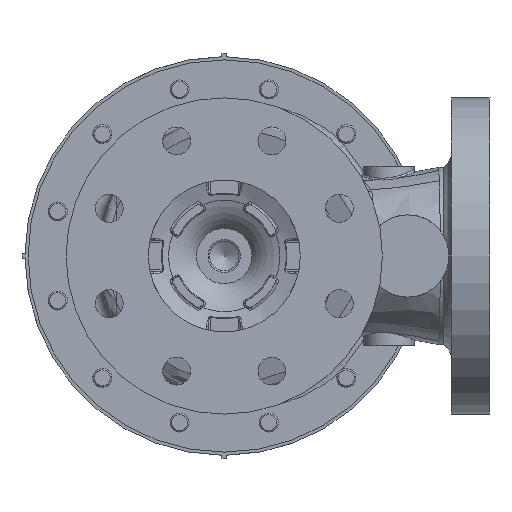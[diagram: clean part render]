
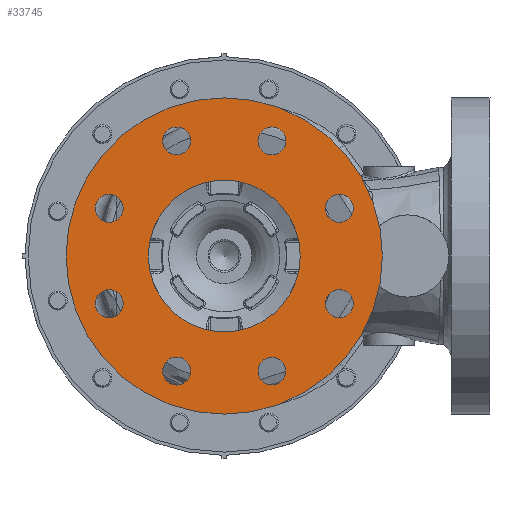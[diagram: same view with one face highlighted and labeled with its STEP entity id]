
A CAD part, front view. The second image highlights one B-rep face of the part: STEP entity #33745.
In plain terms, the highlighted planar face has unit normal (0, -1, 0).
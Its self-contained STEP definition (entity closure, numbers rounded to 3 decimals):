
#980=FACE_BOUND('',#8175,.T.);
#981=FACE_BOUND('',#8176,.T.);
#982=FACE_BOUND('',#8177,.T.);
#983=FACE_BOUND('',#8178,.T.);
#984=FACE_BOUND('',#8179,.T.);
#985=FACE_BOUND('',#8180,.T.);
#986=FACE_BOUND('',#8181,.T.);
#987=FACE_BOUND('',#8182,.T.);
#988=FACE_BOUND('',#8183,.T.);
#5221=PLANE('',#35772);
#6191=FACE_OUTER_BOUND('',#8174,.T.);
#8174=EDGE_LOOP('',(#21539));
#8175=EDGE_LOOP('',(#21540));
#8176=EDGE_LOOP('',(#21541));
#8177=EDGE_LOOP('',(#21542));
#8178=EDGE_LOOP('',(#21543));
#8179=EDGE_LOOP('',(#21544));
#8180=EDGE_LOOP('',(#21545));
#8181=EDGE_LOOP('',(#21546));
#8182=EDGE_LOOP('',(#21547));
#8183=EDGE_LOOP('',(#21548));
#10314=CIRCLE('',#35773,158.75);
#10315=CIRCLE('',#35774,76.2);
#10316=CIRCLE('',#35775,14.);
#10317=CIRCLE('',#35776,14.);
#10318=CIRCLE('',#35777,14.);
#10319=CIRCLE('',#35778,14.);
#10320=CIRCLE('',#35779,14.);
#10321=CIRCLE('',#35780,14.);
#10322=CIRCLE('',#35781,14.);
#10323=CIRCLE('',#35782,14.);
#13193=VERTEX_POINT('',#49818);
#13194=VERTEX_POINT('',#49820);
#13195=VERTEX_POINT('',#49822);
#13196=VERTEX_POINT('',#49824);
#13197=VERTEX_POINT('',#49826);
#13198=VERTEX_POINT('',#49828);
#13199=VERTEX_POINT('',#49830);
#13200=VERTEX_POINT('',#49832);
#13201=VERTEX_POINT('',#49834);
#13202=VERTEX_POINT('',#49836);
#16459=EDGE_CURVE('',#13193,#13193,#10314,.T.);
#16460=EDGE_CURVE('',#13194,#13194,#10315,.T.);
#16461=EDGE_CURVE('',#13195,#13195,#10316,.T.);
#16462=EDGE_CURVE('',#13196,#13196,#10317,.T.);
#16463=EDGE_CURVE('',#13197,#13197,#10318,.T.);
#16464=EDGE_CURVE('',#13198,#13198,#10319,.T.);
#16465=EDGE_CURVE('',#13199,#13199,#10320,.T.);
#16466=EDGE_CURVE('',#13200,#13200,#10321,.T.);
#16467=EDGE_CURVE('',#13201,#13201,#10322,.T.);
#16468=EDGE_CURVE('',#13202,#13202,#10323,.T.);
#21539=ORIENTED_EDGE('',*,*,#16459,.T.);
#21540=ORIENTED_EDGE('',*,*,#16460,.T.);
#21541=ORIENTED_EDGE('',*,*,#16461,.T.);
#21542=ORIENTED_EDGE('',*,*,#16462,.T.);
#21543=ORIENTED_EDGE('',*,*,#16463,.T.);
#21544=ORIENTED_EDGE('',*,*,#16464,.T.);
#21545=ORIENTED_EDGE('',*,*,#16465,.T.);
#21546=ORIENTED_EDGE('',*,*,#16466,.T.);
#21547=ORIENTED_EDGE('',*,*,#16467,.T.);
#21548=ORIENTED_EDGE('',*,*,#16468,.T.);
#33745=ADVANCED_FACE('',(#6191,#980,#981,#982,#983,#984,#985,#986,#987,
#988),#5221,.F.);
#35772=AXIS2_PLACEMENT_3D('',#49817,#39151,#39152);
#35773=AXIS2_PLACEMENT_3D('',#49819,#39153,#39154);
#35774=AXIS2_PLACEMENT_3D('',#49821,#39155,#39156);
#35775=AXIS2_PLACEMENT_3D('',#49823,#39157,#39158);
#35776=AXIS2_PLACEMENT_3D('',#49825,#39159,#39160);
#35777=AXIS2_PLACEMENT_3D('',#49827,#39161,#39162);
#35778=AXIS2_PLACEMENT_3D('',#49829,#39163,#39164);
#35779=AXIS2_PLACEMENT_3D('',#49831,#39165,#39166);
#35780=AXIS2_PLACEMENT_3D('',#49833,#39167,#39168);
#35781=AXIS2_PLACEMENT_3D('',#49835,#39169,#39170);
#35782=AXIS2_PLACEMENT_3D('',#49837,#39171,#39172);
#39151=DIRECTION('center_axis',(0.,1.,0.));
#39152=DIRECTION('ref_axis',(-1.,0.,0.));
#39153=DIRECTION('center_axis',(0.,-1.,0.));
#39154=DIRECTION('ref_axis',(-1.,0.,0.));
#39155=DIRECTION('center_axis',(0.,1.,0.));
#39156=DIRECTION('ref_axis',(-1.,0.,0.));
#39157=DIRECTION('center_axis',(0.,1.,0.));
#39158=DIRECTION('ref_axis',(-1.,0.,0.));
#39159=DIRECTION('center_axis',(0.,1.,0.));
#39160=DIRECTION('ref_axis',(-1.,0.,0.));
#39161=DIRECTION('center_axis',(0.,1.,0.));
#39162=DIRECTION('ref_axis',(-1.,0.,0.));
#39163=DIRECTION('center_axis',(0.,1.,0.));
#39164=DIRECTION('ref_axis',(-1.,0.,0.));
#39165=DIRECTION('center_axis',(0.,1.,0.));
#39166=DIRECTION('ref_axis',(-1.,0.,0.));
#39167=DIRECTION('center_axis',(0.,1.,0.));
#39168=DIRECTION('ref_axis',(-1.,0.,0.));
#39169=DIRECTION('center_axis',(0.,1.,0.));
#39170=DIRECTION('ref_axis',(-1.,0.,0.));
#39171=DIRECTION('center_axis',(0.,1.,0.));
#39172=DIRECTION('ref_axis',(-1.,0.,0.));
#49817=CARTESIAN_POINT('Origin',(0.,-301.628,0.));
#49818=CARTESIAN_POINT('',(158.75,-301.628,-0.003));
#49819=CARTESIAN_POINT('Origin',(0.,-301.628,0.));
#49820=CARTESIAN_POINT('',(76.2,-301.628,-0.001));
#49821=CARTESIAN_POINT('Origin',(0.,-301.628,0.));
#49822=CARTESIAN_POINT('',(101.484,-301.628,-47.837));
#49823=CARTESIAN_POINT('Origin',(115.484,-301.628,-47.838));
#49824=CARTESIAN_POINT('',(37.934,-301.628,-105.586));
#49825=CARTESIAN_POINT('Origin',(47.833,-301.628,-115.486));
#49826=CARTESIAN_POINT('',(-47.837,-301.628,-101.484));
#49827=CARTESIAN_POINT('Origin',(-47.838,-301.628,-115.484));
#49828=CARTESIAN_POINT('',(-105.586,-301.628,-37.934));
#49829=CARTESIAN_POINT('Origin',(-115.486,-301.628,-47.833));
#49830=CARTESIAN_POINT('',(-101.484,-301.628,47.837));
#49831=CARTESIAN_POINT('Origin',(-115.484,-301.628,47.838));
#49832=CARTESIAN_POINT('',(-37.934,-301.628,105.586));
#49833=CARTESIAN_POINT('Origin',(-47.833,-301.628,115.486));
#49834=CARTESIAN_POINT('',(47.837,-301.628,101.484));
#49835=CARTESIAN_POINT('Origin',(47.838,-301.628,115.484));
#49836=CARTESIAN_POINT('',(105.586,-301.628,37.934));
#49837=CARTESIAN_POINT('Origin',(115.486,-301.628,47.833));
